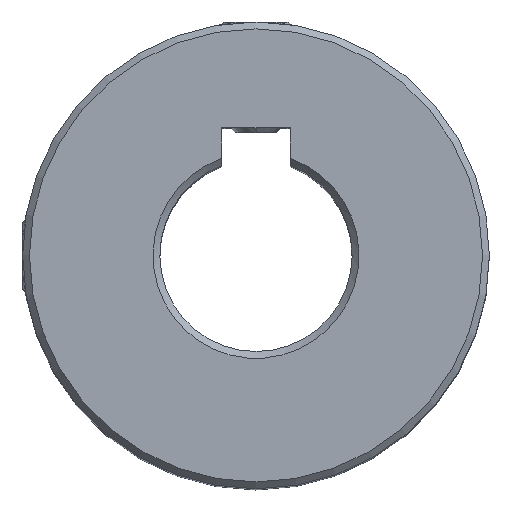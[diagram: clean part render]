
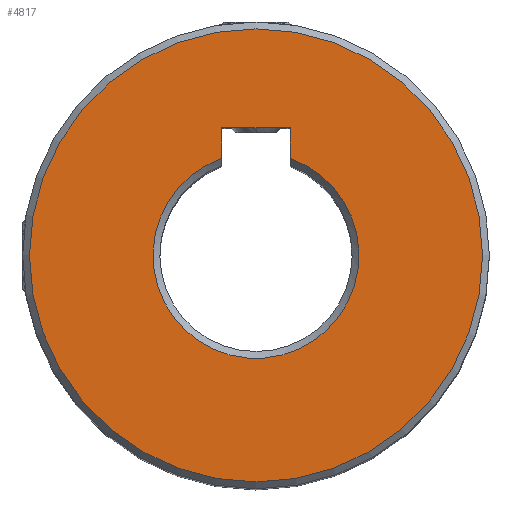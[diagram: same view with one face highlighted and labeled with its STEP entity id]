
A CAD part, top view. The second image highlights one B-rep face of the part: STEP entity #4817.
In plain terms, the highlighted planar face has unit normal (0, 0, 1).
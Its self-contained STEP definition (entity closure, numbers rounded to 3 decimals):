
#88 = VECTOR ( 'NONE', #5561, 1000. ) ;
#486 = CIRCLE ( 'NONE', #6536, 16.5 ) ;
#569 = ORIENTED_EDGE ( 'NONE', *, *, #5338, .T. ) ;
#769 = VERTEX_POINT ( 'NONE', #4559 ) ;
#781 = DIRECTION ( 'NONE',  ( 0., 0., 1. ) ) ;
#878 = PLANE ( 'NONE',  #6533 ) ;
#953 = CARTESIAN_POINT ( 'NONE',  ( 2.5, 9.3, 25. ) ) ;
#1134 = LINE ( 'NONE', #3060, #88 ) ;
#1196 = ORIENTED_EDGE ( 'NONE', *, *, #5018, .T. ) ;
#1295 = VERTEX_POINT ( 'NONE', #953 ) ;
#1488 = ORIENTED_EDGE ( 'NONE', *, *, #4711, .F. ) ;
#1576 = DIRECTION ( 'NONE',  ( 0., 0., 1. ) ) ;
#1650 = CARTESIAN_POINT ( 'NONE',  ( 16.5, 0., 25. ) ) ;
#2028 = FACE_BOUND ( 'NONE', #2105, .T. ) ;
#2054 = VECTOR ( 'NONE', #5819, 1000. ) ;
#2105 = EDGE_LOOP ( 'NONE', ( #1488, #1196, #4367, #3771 ) ) ;
#2249 = VECTOR ( 'NONE', #7568, 1000. ) ;
#2515 = VERTEX_POINT ( 'NONE', #2572 ) ;
#2572 = CARTESIAN_POINT ( 'NONE',  ( 2.5, 7.071, 25. ) ) ;
#2638 = EDGE_CURVE ( 'NONE', #769, #2843, #5047, .T. ) ;
#2663 = CARTESIAN_POINT ( 'NONE',  ( 0., 0., 25. ) ) ;
#2843 = VERTEX_POINT ( 'NONE', #6166 ) ;
#3060 = CARTESIAN_POINT ( 'NONE',  ( 2.5, 9.3, 25. ) ) ;
#3188 = CARTESIAN_POINT ( 'NONE',  ( -2.5, 9.3, 25. ) ) ;
#3292 = LINE ( 'NONE', #7875, #2054 ) ;
#3445 = CARTESIAN_POINT ( 'NONE',  ( 0., 0., 25. ) ) ;
#3771 = ORIENTED_EDGE ( 'NONE', *, *, #5437, .F. ) ;
#3915 = CIRCLE ( 'NONE', #4688, 7.5 ) ;
#4052 = VERTEX_POINT ( 'NONE', #1650 ) ;
#4066 = EDGE_LOOP ( 'NONE', ( #569 ) ) ;
#4096 = DIRECTION ( 'NONE',  ( 1., 0., 0. ) ) ;
#4367 = ORIENTED_EDGE ( 'NONE', *, *, #2638, .F. ) ;
#4559 = CARTESIAN_POINT ( 'NONE',  ( -2.5, 9.3, 25. ) ) ;
#4688 = AXIS2_PLACEMENT_3D ( 'NONE', #3445, #4749, #6043 ) ;
#4711 = EDGE_CURVE ( 'NONE', #2515, #1295, #1134, .T. ) ;
#4749 = DIRECTION ( 'NONE',  ( 0., 0., -1. ) ) ;
#4817 = ADVANCED_FACE ( 'NONE', ( #2028, #7107 ), #878, .T. ) ;
#5018 = EDGE_CURVE ( 'NONE', #2515, #2843, #3915, .T. ) ;
#5047 = LINE ( 'NONE', #3188, #2249 ) ;
#5308 = CARTESIAN_POINT ( 'NONE',  ( 0., 0., 25. ) ) ;
#5338 = EDGE_CURVE ( 'NONE', #4052, #4052, #486, .T. ) ;
#5437 = EDGE_CURVE ( 'NONE', #1295, #769, #3292, .T. ) ;
#5561 = DIRECTION ( 'NONE',  ( 0., 1., 0. ) ) ;
#5819 = DIRECTION ( 'NONE',  ( -1., 0., 0. ) ) ;
#5981 = DIRECTION ( 'NONE',  ( 1., 0., 0. ) ) ;
#6043 = DIRECTION ( 'NONE',  ( 1., 0., 0. ) ) ;
#6166 = CARTESIAN_POINT ( 'NONE',  ( -2.5, 7.071, 25. ) ) ;
#6533 = AXIS2_PLACEMENT_3D ( 'NONE', #5308, #1576, #4096 ) ;
#6536 = AXIS2_PLACEMENT_3D ( 'NONE', #2663, #781, #5981 ) ;
#7107 = FACE_OUTER_BOUND ( 'NONE', #4066, .T. ) ;
#7568 = DIRECTION ( 'NONE',  ( 0., -1., 0. ) ) ;
#7875 = CARTESIAN_POINT ( 'NONE',  ( 2.5, 9.3, 25. ) ) ;
